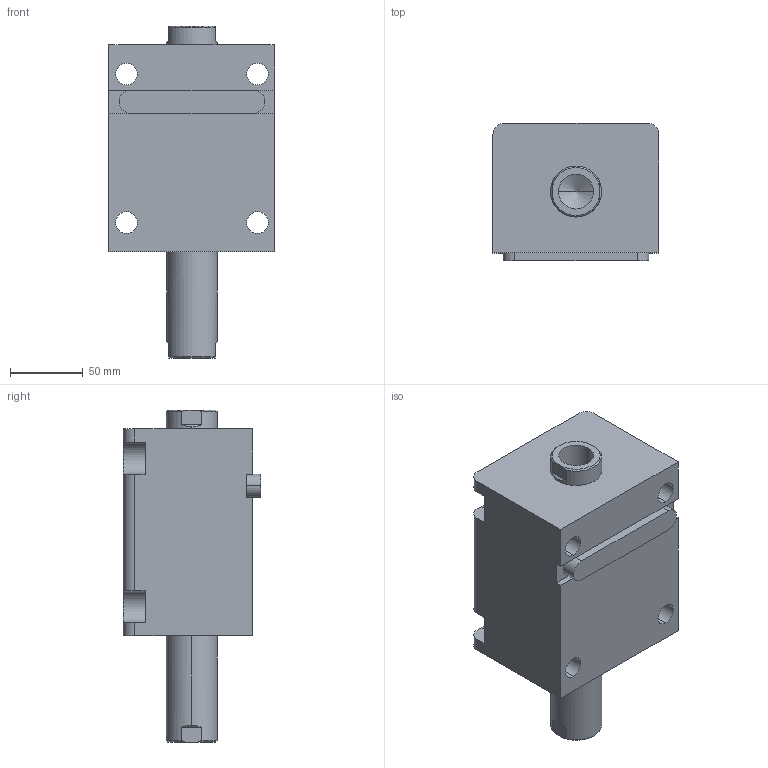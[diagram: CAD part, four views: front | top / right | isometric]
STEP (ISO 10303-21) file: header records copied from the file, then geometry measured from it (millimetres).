
FILE_DESCRIPTION (( 'STEP AP203' ), '1' );
FILE_NAME ('HTB-LW63-60N.STEP', '2019-10-09T08:27:25', ( '微软用户' ), ( '微软中国' ), 'SwSTEP 2.0', 'SolidWorks 2012', '' );
FILE_SCHEMA (( 'CONFIG_CONTROL_DESIGN' ));
Length unit declared in the file: millimetre
Products named in the file (4): HTB-LW63-60N; HTB-LA63-瑩; HTB-LW63-60N活塞杆; HTB-LW63-60掛极
Assembly tree (3 placements, depth 2):
  HTB-LW63-60N
    HTB-LW63-60掛极
    HTB-LW63-60N活塞杆
    HTB-LA63-瑩
Bounding box: 114 x 94.5 x 228 mm (x, y, z)
Volume: 1279223.8 mm3; surface area: 162446.3 mm2
Topology: 3 solids, 3 shells, 101 faces, 253 edges, 164 vertices
Faces by surface type: plane 44, cylinder 41, cone 12, torus 4
Entity records: 3467 total; most frequent: CARTESIAN_POINT 576, DIRECTION 549, ORIENTED_EDGE 498, EDGE_CURVE 249, AXIS2_PLACEMENT_3D 209, VERTEX_POINT 164, LINE 131, VECTOR 131
